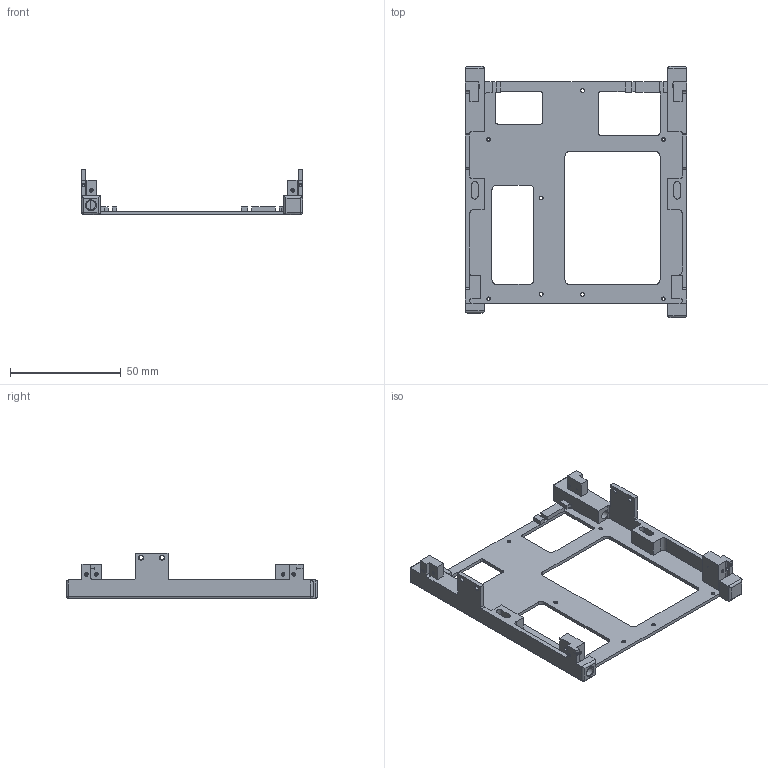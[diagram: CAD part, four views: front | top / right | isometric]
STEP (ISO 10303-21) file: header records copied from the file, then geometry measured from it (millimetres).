
FILE_DESCRIPTION((''),'2;1');
FILE_NAME('NEXUS_DATA_PORT','2020-03-13T',('g0715'),(''),'PRO/ENGINEER BY PARAMETRIC TECHNOLOGY CORPORATION, 2014090','PRO/ENGINEER BY PARAMETRIC TECHNOLOGY CORPORATION, 2014090','');
FILE_SCHEMA(('CONFIG_CONTROL_DESIGN'));
Length unit declared in the file: millimetre
Products named in the file (1): NEXUS_DATA_PORT
Bounding box: 100 x 113.5 x 20.5 mm (x, y, z)
Volume: 17630.6 mm3; surface area: 21099.4 mm2
Topology: 1 solids, 24 shells, 356 faces, 996 edges, 649 vertices
Faces by surface type: cylinder 186, plane 143, cone 23, sphere 4
Entity records: 11691 total; most frequent: CARTESIAN_POINT 2258, DIRECTION 2034, ORIENTED_EDGE 1850, EDGE_CURVE 974, AXIS2_PLACEMENT_3D 740, VERTEX_POINT 649, VECTOR 554, LINE 554
